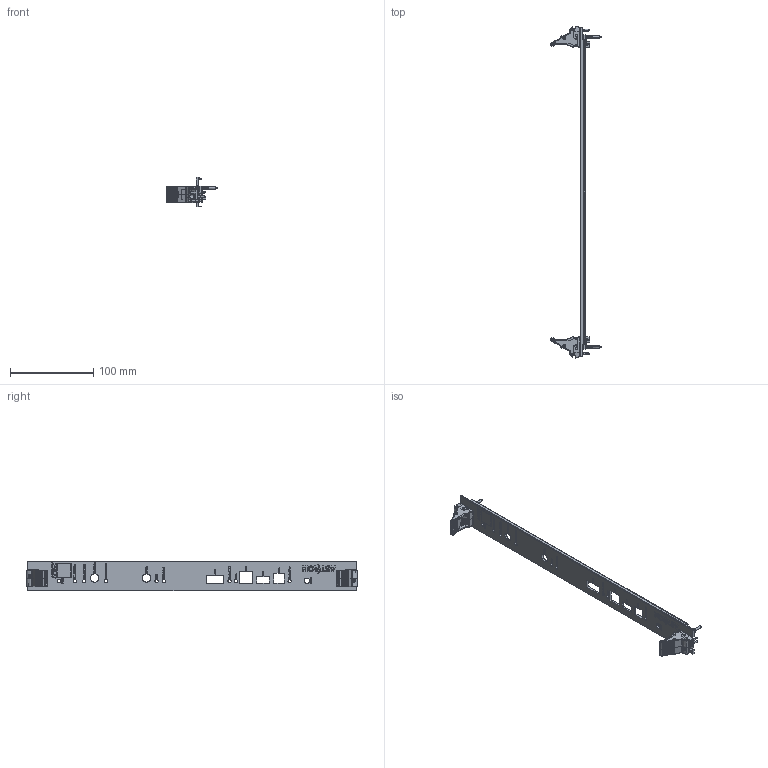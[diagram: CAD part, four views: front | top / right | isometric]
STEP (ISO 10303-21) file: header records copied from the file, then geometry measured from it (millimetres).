
FILE_DESCRIPTION(/* description */ (''),/* implementation_level */ '2;1');
FILE_NAME(/* name */ '015380_01-APSCT_assy front panel.stp',/* time_stamp */ '2023-05-30T09:09:25+02:00',/* author */ (''),/* organization */ (''),/* preprocessor_version */ 'ST-DEVELOPER v18.1',/* originating_system */ 'SIEMENS PLM Software NX 1973',/* authorisation */ '');
FILE_SCHEMA (('AUTOMOTIVE_DESIGN { 1 0 10303 214 3 1 1 1 }'));
Products named in the file (5): 015239_01-Front Panel EMC_Stainless Steel_9U; 014975_02-APSCT_front panel; 014976_01-Extractor top; 014977_01-Extractor bottom; 015380_01-APSCT_assy front panel
Assembly tree (4 placements, depth 2):
  015380_01-APSCT_assy front panel
    014977_01-Extractor bottom
    014976_01-Extractor top
    014975_02-APSCT_front panel
    015239_01-Front Panel EMC_Stainless Steel_9U
Bounding box: 60.45 x 399.27 x 35.92 mm (x, y, z)
Volume: 49553.1 mm3; surface area: 54707.8 mm2
Topology: 39 solids, 39 shells, 4230 faces, 10859 edges, 6693 vertices
Faces by surface type: cylinder 1755, plane 1436, bspline 880, cone 148, extrusion 11
Full cylindrical faces by diameter (mm): 2.6 x2, 4 x9, 6.5 x1, 10 x2
Entity records: 170447 total; most frequent: CARTESIAN_POINT 58258, ORIENTED_EDGE 21218, DIRECTION 17461, EDGE_CURVE 10609, VERTEX_POINT 6692, AXIS2_PLACEMENT_3D 6548, EDGE_LOOP 4559, VECTOR 4365
